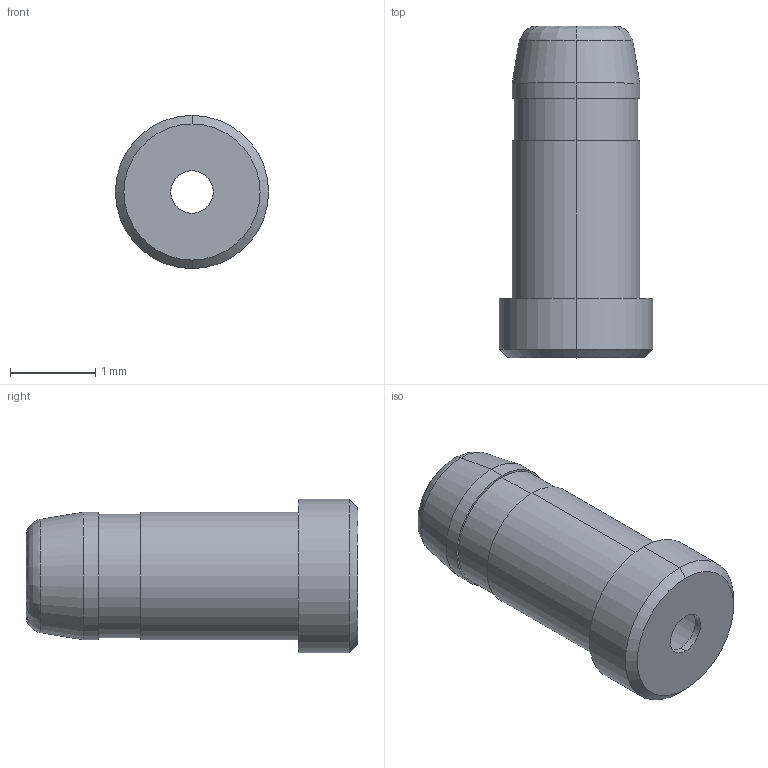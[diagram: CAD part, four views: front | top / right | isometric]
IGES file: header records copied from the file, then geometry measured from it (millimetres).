
Start section:  PTC IGES file: solder__w___any_prt.igs
Global section: file name: solder__w___any_prt.igs; native system: Pro/ENGINEER by Parametric Technology Corporation; preprocessor: 2006170; author: GRA; organization: Unknown; date: 20080630.105210; units: millimetre
Bounding box: 1.8 x 3.9 x 1.8 mm (x, y, z)
Surface area: 36.3 mm2 (no closed solid volume)
Topology: 0 solids, 0 shells, 28 faces, 112 edges, 112 vertices
Faces by surface type: revolution 24, bspline 4
